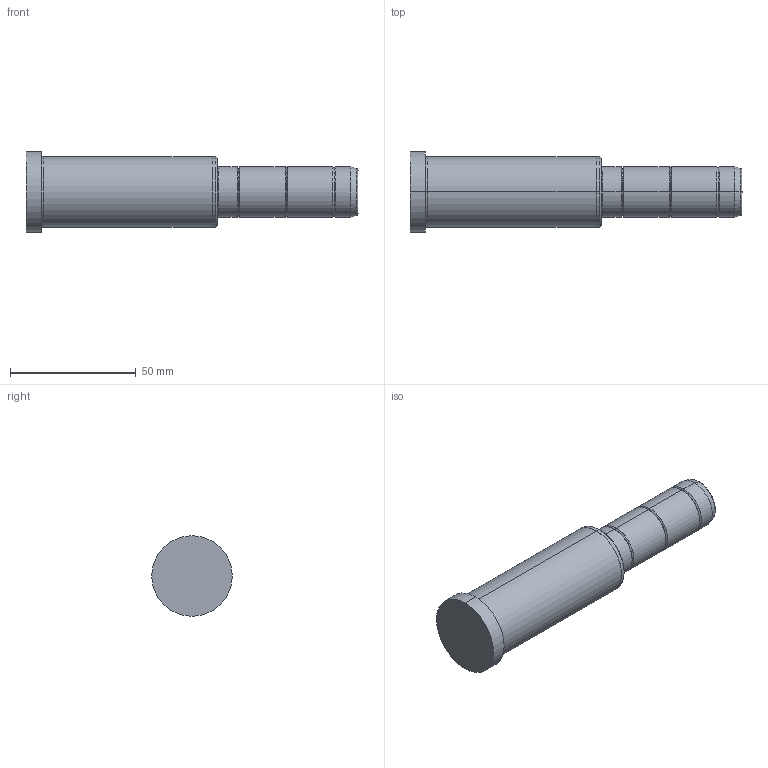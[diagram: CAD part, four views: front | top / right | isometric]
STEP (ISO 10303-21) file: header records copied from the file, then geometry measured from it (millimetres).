
FILE_DESCRIPTION( ( 'STEP AP203' ), '1' );
FILE_NAME( 'C:/Projects/D02 - 20x76x56.step', '2003-01-04T13:50:42', ( ' ' ), ( ' ' ), 'XStep 1.0', ' ', ' ' );
FILE_SCHEMA( ( 'CONFIG_CONTROL_DESIGN' ) );
Length unit declared in the file: metre
Products named in the file (1): 1
Bounding box: 132 x 32 x 32 mm (x, y, z)
Volume: 65419.9 mm3; surface area: 11889.5 mm2
Topology: 1 solids, 1 shells, 42 faces, 82 edges, 46 vertices
Faces by surface type: bspline 22, revolution 20
Entity records: 1325 total; most frequent: CARTESIAN_POINT 517, ORIENTED_EDGE 164, DIRECTION 134, EDGE_CURVE 82, AXIS2_PLACEMENT_3D 47, EDGE_LOOP 46, VERTEX_POINT 46, CIRCLE 46
